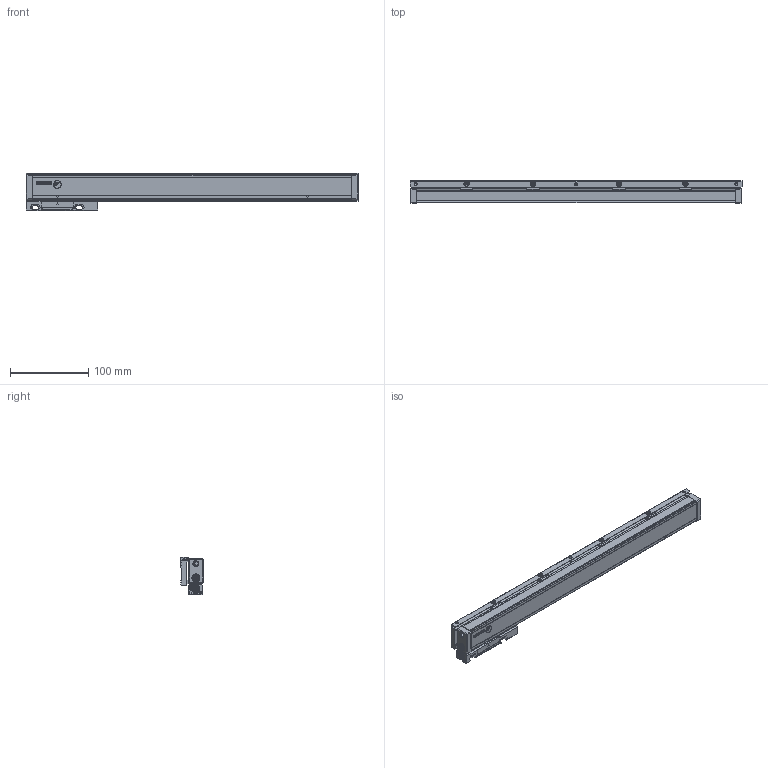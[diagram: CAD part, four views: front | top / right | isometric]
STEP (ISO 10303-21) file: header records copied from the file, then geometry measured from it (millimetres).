
FILE_DESCRIPTION(('Creo Elements/Direct Modeling STEP Export'),'2;1');
FILE_NAME('REGLA_SV3-320-B.stp','2020-10-30T12:03:17',(''),(''),'Creo Elements/Direct Modeling STEP processor for AP214 (Solid Model)','Creo Elements/Direct Modeling 19.0G 27-Nov-2017 (C) Parametric Technology GmbH','');
FILE_SCHEMA(('AUTOMOTIVE_DESIGN { 1 0 10303 214 1 1 1 1 }'));
Length unit declared in the file: millimetre
Products named in the file (4): PERFIL_SOPORTE_MECANIZADO_REGLA_SV3-320; PERFIL_REGLA_SV3-320; CABEZA_RANURADA_REGLA_S3; REGLA_SV3-320
Assembly tree (3 placements, depth 2):
  REGLA_SV3-320
    CABEZA_RANURADA_REGLA_S3
    PERFIL_REGLA_SV3-320
    PERFIL_SOPORTE_MECANIZADO_REGLA_SV3-320
Bounding box: 425 x 28.3 x 48.1 mm (x, y, z)
Volume: 348462.1 mm3; surface area: 118315.1 mm2
Topology: 3 solids, 26 shells, 2346 faces, 7373 edges, 5131 vertices
Faces by surface type: plane 1436, cylinder 661, cone 200, bspline 25, torus 24
Entity records: 94893 total; most frequent: CARTESIAN_POINT 19491, ORIENTED_EDGE 14702, DIRECTION 11889, EDGE_CURVE 7349, VERTEX_POINT 5131, VECTOR 5073, LINE 5073, AXIS2_PLACEMENT_3D 3408
